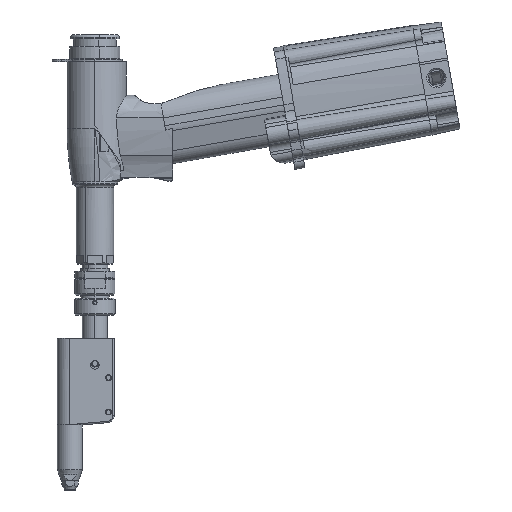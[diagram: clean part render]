
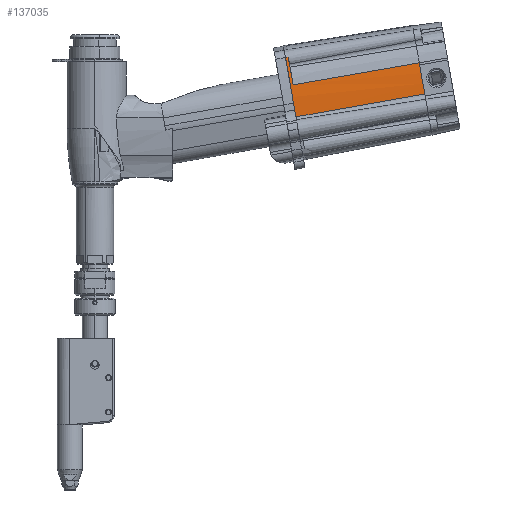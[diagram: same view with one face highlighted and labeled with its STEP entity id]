
A CAD part, left-side view. The second image highlights one B-rep face of the part: STEP entity #137035.
In plain terms, the highlighted conical face has half-angle 1.065 degrees and reference radius 162 mm.
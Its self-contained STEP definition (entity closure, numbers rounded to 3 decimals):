
#5193 = VERTEX_POINT ( 'NONE', #146665 ) ;
#14064 = CARTESIAN_POINT ( 'NONE',  ( -40.458, -140.546, 14.911 ) ) ;
#15485 = CARTESIAN_POINT ( 'NONE',  ( -38.556, -226.786, 52.744 ) ) ;
#18245 = LINE ( 'NONE', #98244, #173501 ) ;
#22758 = AXIS2_PLACEMENT_3D ( 'NONE', #172958, #52370, #53234 ) ;
#24680 = LINE ( 'NONE', #14064, #170799 ) ;
#25050 = CARTESIAN_POINT ( 'NONE',  ( 121.25, -140.828, 24.832 ) ) ;
#31109 = ORIENTED_EDGE ( 'NONE', *, *, #108535, .F. ) ;
#31521 = DIRECTION ( 'NONE',  ( 0., 0.174, 0.985 ) ) ;
#37634 = AXIS2_PLACEMENT_3D ( 'NONE', #167371, #154992, #152387 ) ;
#38802 = AXIS2_PLACEMENT_3D ( 'NONE', #160865, #72736, #31521 ) ;
#43443 = CARTESIAN_POINT ( 'NONE',  ( -37.475, -133.23, 56.399 ) ) ;
#45904 = EDGE_CURVE ( 'NONE', #102404, #163703, #98532, .T. ) ;
#46163 = ORIENTED_EDGE ( 'NONE', *, *, #155574, .T. ) ;
#46989 = CARTESIAN_POINT ( 'NONE',  ( -38.76, -230.638, 30.9 ) ) ;
#52370 = DIRECTION ( 'NONE',  ( 0., 0.985, -0.174 ) ) ;
#53234 = DIRECTION ( 'NONE',  ( 0., -0.174, -0.985 ) ) ;
#53678 = AXIS2_PLACEMENT_3D ( 'NONE', #25050, #78652, #145489 ) ;
#55178 = EDGE_CURVE ( 'NONE', #5193, #102404, #24680, .T. ) ;
#59606 = EDGE_CURVE ( 'NONE', #118394, #67288, #129470, .T. ) ;
#60117 = VERTEX_POINT ( 'NONE', #43443 ) ;
#63288 = LINE ( 'NONE', #144195, #87045 ) ;
#67288 = VERTEX_POINT ( 'NONE', #138856 ) ;
#68500 = CIRCLE ( 'NONE', #37634, 162. ) ;
#70175 = FACE_OUTER_BOUND ( 'NONE', #141437, .T. ) ;
#72736 = DIRECTION ( 'NONE',  ( 0., 0.985, -0.174 ) ) ;
#72985 = ORIENTED_EDGE ( 'NONE', *, *, #151984, .T. ) ;
#75172 = CONICAL_SURFACE ( 'NONE', #38802, 162., 0.019 ) ;
#75619 = DIRECTION ( 'NONE',  ( -0.018, 0.985, -0.17 ) ) ;
#78652 = DIRECTION ( 'NONE',  ( 0., 0.985, -0.174 ) ) ;
#84219 = DIRECTION ( 'NONE',  ( -0.019, 0.985, -0.172 ) ) ;
#87045 = VECTOR ( 'NONE', #75619, 1000. ) ;
#98244 = CARTESIAN_POINT ( 'NONE',  ( -40.252, -136.653, 36.987 ) ) ;
#98532 = CIRCLE ( 'NONE', #22758, 160.299 ) ;
#102404 = VERTEX_POINT ( 'NONE', #46989 ) ;
#108535 = EDGE_CURVE ( 'NONE', #5193, #60117, #68500, .T. ) ;
#118394 = VERTEX_POINT ( 'NONE', #142324 ) ;
#125574 = ORIENTED_EDGE ( 'NONE', *, *, #59606, .T. ) ;
#129470 = CIRCLE ( 'NONE', #53678, 161.963 ) ;
#131004 = DIRECTION ( 'NONE',  ( 0.019, -0.984, 0.175 ) ) ;
#137035 = ADVANCED_FACE ( 'NONE', ( #70175 ), #75172, .T. ) ;
#137118 = ORIENTED_EDGE ( 'NONE', *, *, #55178, .T. ) ;
#138856 = CARTESIAN_POINT ( 'NONE',  ( -37.439, -135.201, 56.739 ) ) ;
#141437 = EDGE_LOOP ( 'NONE', ( #31109, #137118, #173305, #72985, #125574, #46163 ) ) ;
#142324 = CARTESIAN_POINT ( 'NONE',  ( -40.215, -138.624, 37.331 ) ) ;
#144195 = CARTESIAN_POINT ( 'NONE',  ( -37.475, -133.23, 56.399 ) ) ;
#145489 = DIRECTION ( 'NONE',  ( 0., -0.174, -0.985 ) ) ;
#146665 = CARTESIAN_POINT ( 'NONE',  ( -40.458, -140.546, 14.911 ) ) ;
#151984 = EDGE_CURVE ( 'NONE', #163703, #118394, #18245, .T. ) ;
#152387 = DIRECTION ( 'NONE',  ( 0., -0.174, -0.985 ) ) ;
#154992 = DIRECTION ( 'NONE',  ( 0., 0.985, -0.174 ) ) ;
#155574 = EDGE_CURVE ( 'NONE', #67288, #60117, #63288, .T. ) ;
#160865 = CARTESIAN_POINT ( 'NONE',  ( 121.25, -138.858, 24.484 ) ) ;
#163703 = VERTEX_POINT ( 'NONE', #15485 ) ;
#167371 = CARTESIAN_POINT ( 'NONE',  ( 121.25, -138.858, 24.484 ) ) ;
#170799 = VECTOR ( 'NONE', #131004, 1000. ) ;
#172958 = CARTESIAN_POINT ( 'NONE',  ( 121.25, -228.968, 40.373 ) ) ;
#173305 = ORIENTED_EDGE ( 'NONE', *, *, #45904, .T. ) ;
#173501 = VECTOR ( 'NONE', #84219, 1000. ) ;
